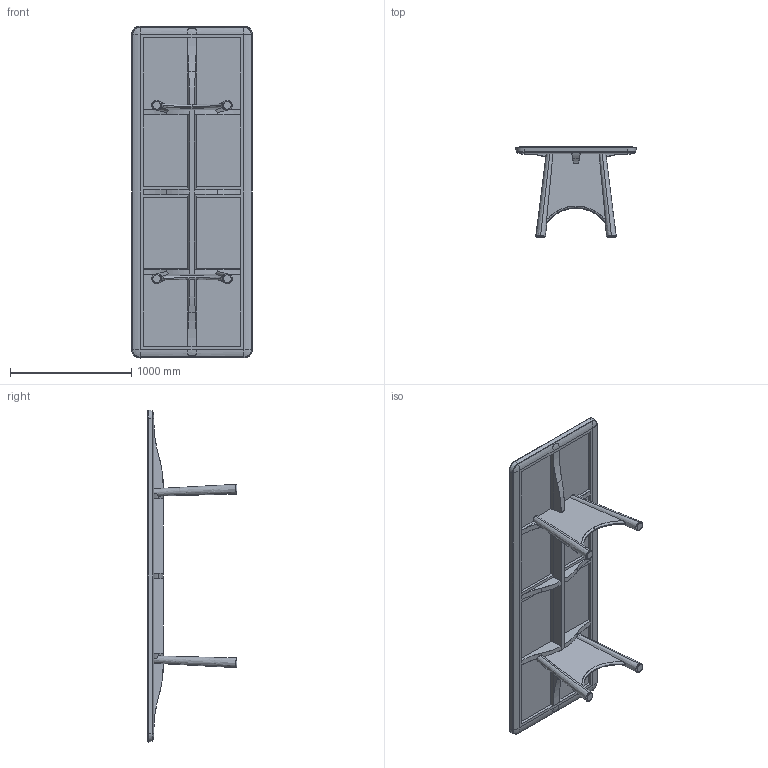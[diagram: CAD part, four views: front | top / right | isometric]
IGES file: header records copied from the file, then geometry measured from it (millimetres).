
Start section: SolidWorks IGES file using analytic representation for surfaces
Global section: file name: C:\Users\Utilizador\Downloads\681 Twenty-five Dining Table_3D IGS.IGS; native system: SolidWorks 2016; preprocessor: SolidWorks 2016; author: Utilizador; date: 220224.085206; units: millimetre
Bounding box: 993.99 x 740 x 2733.99 mm (x, y, z)
Surface area: 8409910.1 mm2 (no closed solid volume)
Topology: 0 solids, 0 shells, 1120 faces, 7388 edges, 7384 vertices
Faces by surface type: bspline 1052, revolution 68
